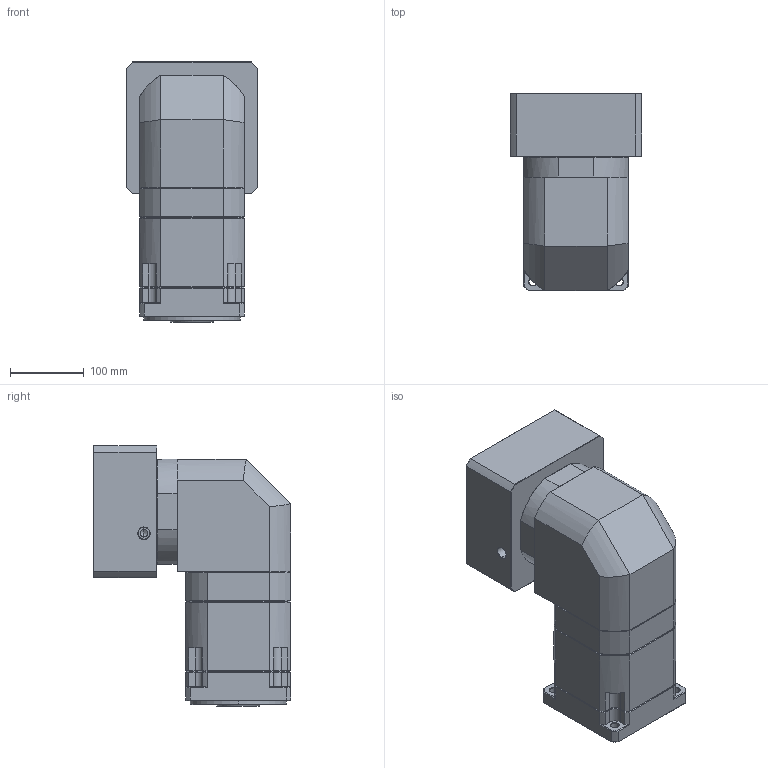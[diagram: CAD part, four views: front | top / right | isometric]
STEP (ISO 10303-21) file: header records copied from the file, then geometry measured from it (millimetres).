
FILE_DESCRIPTION (( 'STEP AP214' ), '1' );
FILE_NAME ('ZBR142A-K35-L3-P2-42-114.3-200-M12.step', '2023-09-02T07:18:33', ( '' ), ( '' ), 'SwSTEP 2.0', 'SolidWorks 2016', '' );
FILE_SCHEMA (( 'AUTOMOTIVE_DESIGN' ));
Length unit declared in the file: millimetre
Products named in the file (1): ZBR142A-K35-L3-P2-42-114.3-200-M12
Bounding box: 178 x 267 x 351.7 mm (x, y, z)
Volume: 8138822.7 mm3; surface area: 496806.9 mm2
Topology: 6 solids, 6 shells, 2263 faces, 5931 edges, 3774 vertices
Faces by surface type: plane 1125, bspline 403, cylinder 381, cone 334, torus 20
Entity records: 122750 total; most frequent: CARTESIAN_POINT 45337, ORIENTED_EDGE 11806, DIRECTION 9363, EDGE_CURVE 5903, VECTOR 3859, LINE 3859, VERTEX_POINT 3774, AXIS2_PLACEMENT_3D 2752
